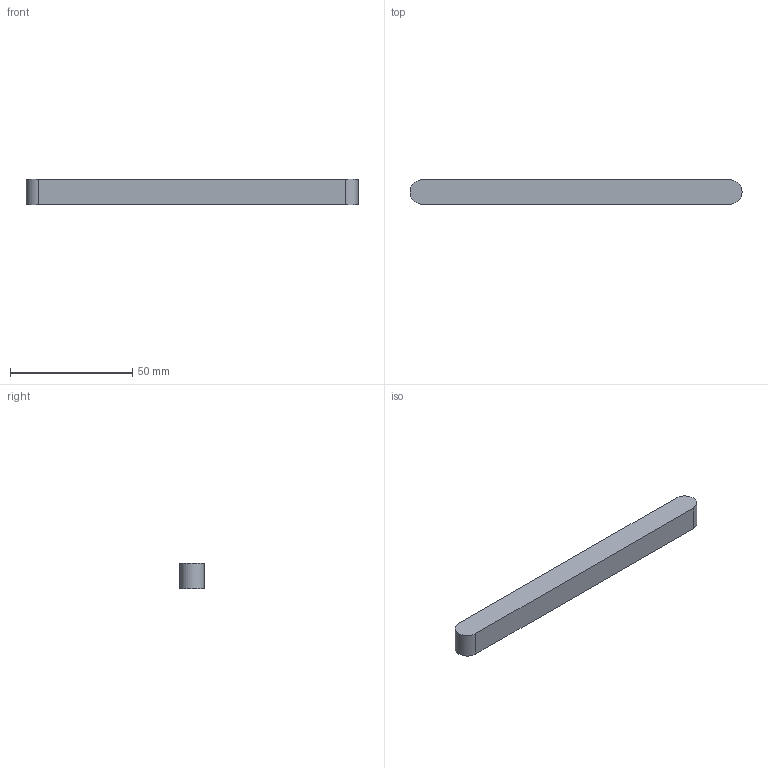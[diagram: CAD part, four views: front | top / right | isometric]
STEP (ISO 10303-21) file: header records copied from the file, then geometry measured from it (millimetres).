
FILE_DESCRIPTION(('Open CASCADE Model'),'2;1');
FILE_NAME('Open CASCADE Shape Model','2026-10-21T18:19:08',('Author'),( 'Open CASCADE'),'Open CASCADE STEP processor 8.0','build123d', 'Unknown');
FILE_SCHEMA(('AUTOMOTIVE_DESIGN { 1 0 10303 214 1 1 1 1 }'));
Length unit declared in the file: millimetre
Products named in the file (1): COMPOUND
Bounding box: 135.85 x 10 x 10.3 mm (x, y, z)
Volume: 13771.5 mm3; surface area: 5590.2 mm2
Topology: 1 solids, 1 shells, 6 faces, 12 edges, 8 vertices
Faces by surface type: plane 4, cylinder 2
Entity records: 338 total; most frequent: CARTESIAN_POINT 75, DIRECTION 50, LINE 28, VECTOR 28, ORIENTED_EDGE 24, PCURVE 24, DEFINITIONAL_REPRESENTATION 24, EDGE_CURVE 12
